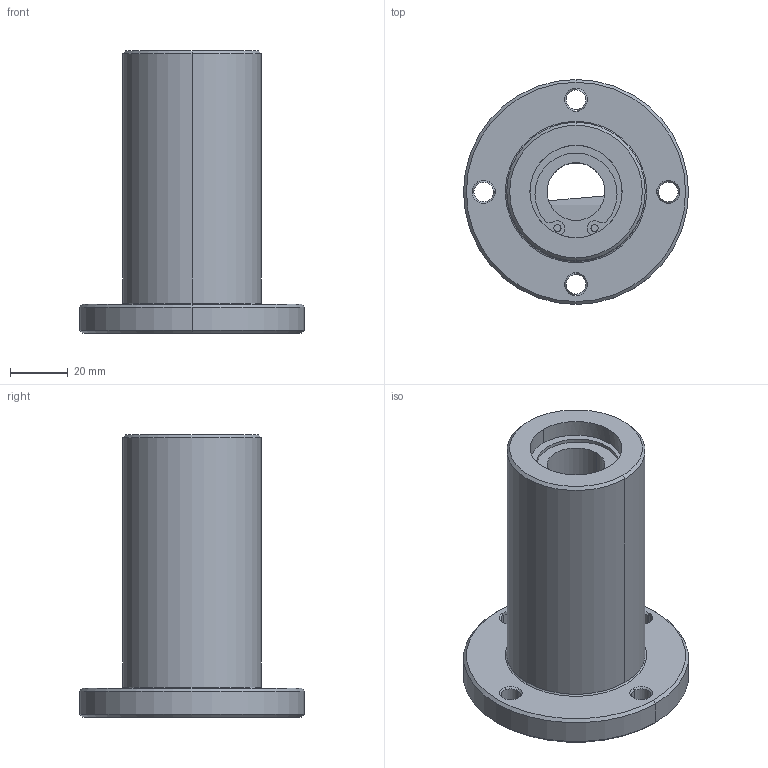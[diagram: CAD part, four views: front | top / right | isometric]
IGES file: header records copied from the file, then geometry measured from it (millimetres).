
Start section: 3D InterOp IGES (Version 21 0 1), Spatial Corp. Copyright (c) 1999-2007.
Global section: file name: LCFD-20AVUU.igs; native system: Spatial Corp.; preprocessor: 3D InterOp GENERIC/IGES 3.0; author: Noname; organization: Noname; date: 20220517.163518; units: millimetre
Bounding box: 78 x 78 x 98 mm (x, y, z)
Surface area: 31478.7 mm2 (no closed solid volume)
Topology: 0 solids, 0 shells, 88 faces, 434 edges, 434 vertices
Faces by surface type: revolution 72, extrusion 16
